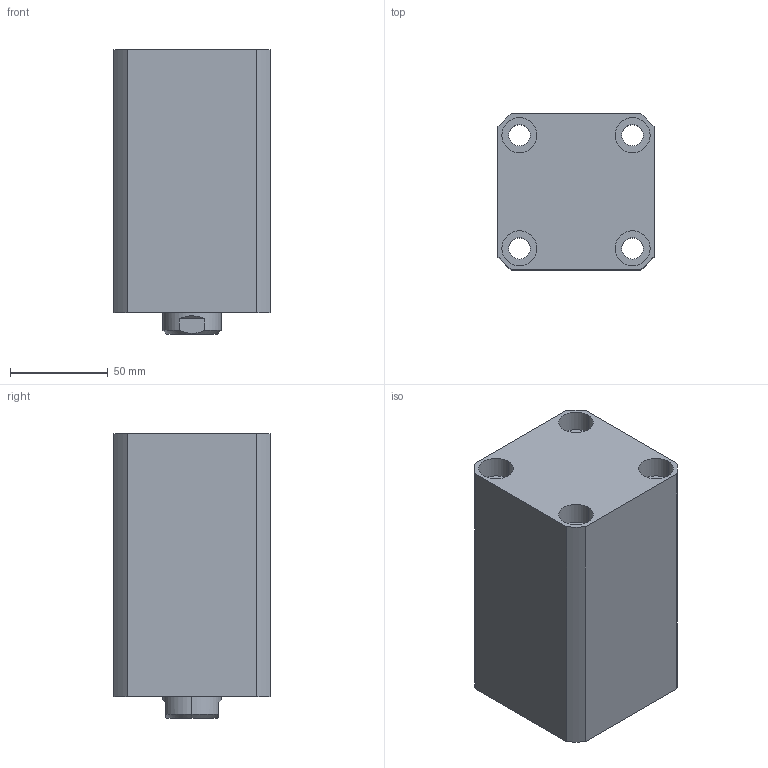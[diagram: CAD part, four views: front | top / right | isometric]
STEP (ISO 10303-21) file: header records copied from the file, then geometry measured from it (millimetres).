
FILE_DESCRIPTION (( 'STEP AP203' ), '1' );
FILE_NAME ('CHTB-SD50-75N.STEP', '2018-05-19T00:24:40', ( '' ), ( '' ), 'SwSTEP 2.0', 'SolidWorks 2015', '' );
FILE_SCHEMA (( 'CONFIG_CONTROL_DESIGN' ));
Length unit declared in the file: millimetre
Products named in the file (4): CHTB-SD50-75N; 掛极SD50-75N; 活塞杆SD50-75N; CHTM-SD50QG
Assembly tree (3 placements, depth 2):
  CHTB-SD50-75N
    掛极SD50-75N
    活塞杆SD50-75N
    CHTM-SD50QG
Bounding box: 80 x 80 x 146 mm (x, y, z)
Volume: 684803.9 mm3; surface area: 130387.6 mm2
Topology: 3 solids, 3 shells, 194 faces, 499 edges, 330 vertices
Faces by surface type: cylinder 104, plane 39, cone 21, torus 16, bspline 14
Entity records: 10789 total; most frequent: CARTESIAN_POINT 5840, ORIENTED_EDGE 986, DIRECTION 914, EDGE_CURVE 493, AXIS2_PLACEMENT_3D 383, VERTEX_POINT 330, EDGE_LOOP 233, CIRCLE 197
